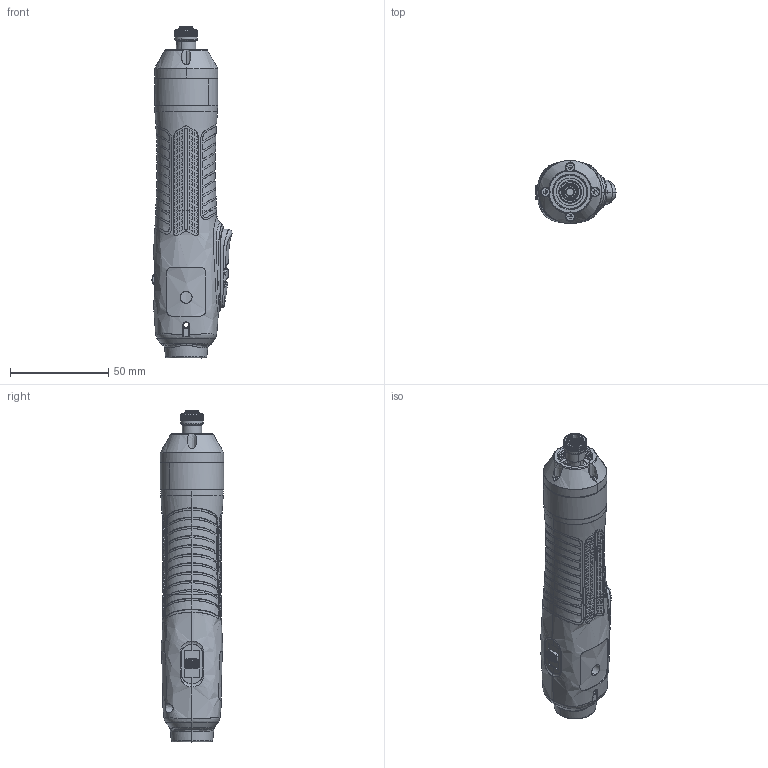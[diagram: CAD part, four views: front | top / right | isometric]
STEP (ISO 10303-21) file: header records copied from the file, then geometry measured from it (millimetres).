
FILE_DESCRIPTION (( 'STEP AP203' ), '1' );
FILE_NAME ('MD2201-E 33.STEP', '2024-01-05T08:11:02', ( '' ), ( '' ), 'SwSTEP 2.0', 'SolidWorks 2021', '' );
FILE_SCHEMA (( 'CONFIG_CONTROL_DESIGN' ));
Products named in the file (1): MD2201-E 33
Bounding box: 40.76 x 32.2 x 168.98 mm (x, y, z)
Surface area: 22632 mm2 (no closed solid volume)
Topology: 0 solids, 1338 shells, 1338 faces, 6830 edges, 6830 vertices
Faces by surface type: bspline 1338
Entity records: 123869 total; most frequent: CARTESIAN_POINT 90262, ORIENTED_EDGE 6830, VERTEX_POINT 6830, EDGE_CURVE 6830, B_SPLINE_CURVE_WITH_KNOTS 6292, EDGE_LOOP 1517, OPEN_SHELL 1338, FACE_OUTER_BOUND 1338
